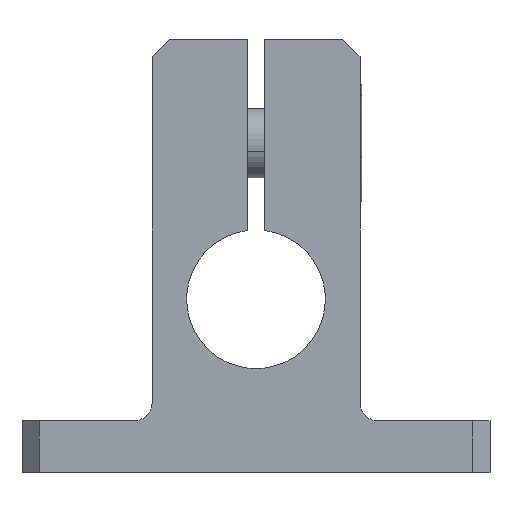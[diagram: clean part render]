
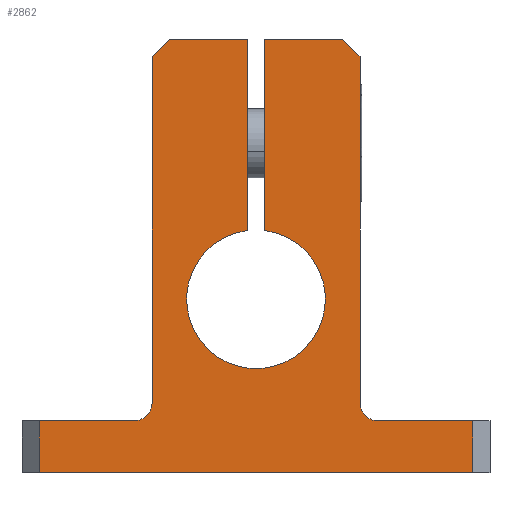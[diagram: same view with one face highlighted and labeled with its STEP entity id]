
A CAD part, front view. The second image highlights one B-rep face of the part: STEP entity #2862.
In plain terms, the highlighted planar face has unit normal (0, -1, 0).
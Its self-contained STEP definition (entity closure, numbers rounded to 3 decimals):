
#38 = CARTESIAN_POINT ( 'NONE',  ( -24.305, 23.213, 0. ) ) ;
#61 = ORIENTED_EDGE ( 'NONE', *, *, #5228, .F. ) ;
#80 = VERTEX_POINT ( 'NONE', #747 ) ;
#197 = CARTESIAN_POINT ( 'NONE',  ( -23.805, 23.213, 12. ) ) ;
#227 = CARTESIAN_POINT ( 'NONE',  ( -18.305, 23.213, -12.5 ) ) ;
#285 = CARTESIAN_POINT ( 'NONE',  ( -5.805, 23.213, 0. ) ) ;
#420 = PLANE ( 'NONE',  #8279 ) ;
#483 = CIRCLE ( 'NONE', #10924, 4. ) ;
#556 = LINE ( 'NONE', #197, #2986 ) ;
#746 = CARTESIAN_POINT ( 'NONE',  ( -17.805, 23.213, 12.5 ) ) ;
#747 = CARTESIAN_POINT ( 'NONE',  ( -11.305, 23.213, -9.5 ) ) ;
#970 = CARTESIAN_POINT ( 'NONE',  ( -30.805, 23.213, -9.5 ) ) ;
#995 = DIRECTION ( 'NONE',  ( 0., 0., 1. ) ) ;
#1067 = DIRECTION ( 'NONE',  ( 1., 0., 0. ) ) ;
#1245 = ORIENTED_EDGE ( 'NONE', *, *, #10528, .F. ) ;
#1276 = VERTEX_POINT ( 'NONE', #4174 ) ;
#1330 = CARTESIAN_POINT ( 'NONE',  ( -30.805, 23.213, 0. ) ) ;
#1364 = LINE ( 'NONE', #1330, #6016 ) ;
#1525 = ORIENTED_EDGE ( 'NONE', *, *, #1619, .F. ) ;
#1587 = DIRECTION ( 'NONE',  ( 1., 0., 0. ) ) ;
#1618 = DIRECTION ( 'NONE',  ( 0., -1., 0. ) ) ;
#1619 = EDGE_CURVE ( 'NONE', #5205, #8903, #5196, .T. ) ;
#1661 = ORIENTED_EDGE ( 'NONE', *, *, #8427, .F. ) ;
#1711 = CARTESIAN_POINT ( 'NONE',  ( -17.805, 23.213, 1.469 ) ) ;
#1750 = CARTESIAN_POINT ( 'NONE',  ( -18.305, 23.213, -2.5 ) ) ;
#1764 = CARTESIAN_POINT ( 'NONE',  ( -11.305, 23.213, -8.5 ) ) ;
#1837 = LINE ( 'NONE', #227, #2993 ) ;
#1851 = EDGE_CURVE ( 'NONE', #9781, #1276, #1837, .T. ) ;
#2230 = VECTOR ( 'NONE', #11232, 1000. ) ;
#2266 = DIRECTION ( 'NONE',  ( 0., 0., 1. ) ) ;
#2304 = DIRECTION ( 'NONE',  ( 0., 1., 0. ) ) ;
#2313 = EDGE_CURVE ( 'NONE', #80, #7800, #4993, .T. ) ;
#2427 = CARTESIAN_POINT ( 'NONE',  ( -18.805, 23.213, 0. ) ) ;
#2503 = LINE ( 'NONE', #3788, #2230 ) ;
#2516 = ORIENTED_EDGE ( 'NONE', *, *, #2714, .F. ) ;
#2663 = DIRECTION ( 'NONE',  ( 0., 0., 1. ) ) ;
#2680 = DIRECTION ( 'NONE',  ( 0., 0., 1. ) ) ;
#2714 = EDGE_CURVE ( 'NONE', #2820, #7849, #556, .T. ) ;
#2740 = EDGE_CURVE ( 'NONE', #7800, #9781, #4292, .T. ) ;
#2820 = VERTEX_POINT ( 'NONE', #9621 ) ;
#2862 = ADVANCED_FACE ( 'NONE', ( #7497 ), #420, .F. ) ;
#2871 = VERTEX_POINT ( 'NONE', #9749 ) ;
#2947 = AXIS2_PLACEMENT_3D ( 'NONE', #7187, #1618, #8140 ) ;
#2986 = VECTOR ( 'NONE', #10449, 1000. ) ;
#2993 = VECTOR ( 'NONE', #6730, 1000. ) ;
#3014 = AXIS2_PLACEMENT_3D ( 'NONE', #1764, #8282, #2680 ) ;
#3252 = ORIENTED_EDGE ( 'NONE', *, *, #3920, .T. ) ;
#3330 = VERTEX_POINT ( 'NONE', #746 ) ;
#3397 = ORIENTED_EDGE ( 'NONE', *, *, #5262, .F. ) ;
#3420 = CARTESIAN_POINT ( 'NONE',  ( -12.805, 23.213, 12. ) ) ;
#3501 = LINE ( 'NONE', #10319, #8463 ) ;
#3527 = ORIENTED_EDGE ( 'NONE', *, *, #10908, .F. ) ;
#3788 = CARTESIAN_POINT ( 'NONE',  ( -12.305, 23.213, 1.5 ) ) ;
#3814 = ORIENTED_EDGE ( 'NONE', *, *, #2740, .F. ) ;
#3920 = EDGE_CURVE ( 'NONE', #4074, #8903, #2503, .T. ) ;
#4074 = VERTEX_POINT ( 'NONE', #8663 ) ;
#4166 = EDGE_CURVE ( 'NONE', #7849, #5373, #6792, .T. ) ;
#4174 = CARTESIAN_POINT ( 'NONE',  ( -30.805, 23.213, -12.5 ) ) ;
#4292 = LINE ( 'NONE', #285, #6489 ) ;
#4479 = DIRECTION ( 'NONE',  ( 0.707, 0., -0.707 ) ) ;
#4488 = DIRECTION ( 'NONE',  ( 1., 0., 0. ) ) ;
#4643 = DIRECTION ( 'NONE',  ( 1., 0., 0. ) ) ;
#4883 = CARTESIAN_POINT ( 'NONE',  ( -5.805, 23.213, -9.5 ) ) ;
#4971 = CARTESIAN_POINT ( 'NONE',  ( -23.305, 23.213, 12.5 ) ) ;
#4993 = LINE ( 'NONE', #10241, #9965 ) ;
#5091 = VERTEX_POINT ( 'NONE', #1711 ) ;
#5196 = LINE ( 'NONE', #3420, #8994 ) ;
#5205 = VERTEX_POINT ( 'NONE', #9268 ) ;
#5228 = EDGE_CURVE ( 'NONE', #2871, #2820, #9631, .T. ) ;
#5262 = EDGE_CURVE ( 'NONE', #5091, #3330, #3501, .T. ) ;
#5281 = ORIENTED_EDGE ( 'NONE', *, *, #10756, .F. ) ;
#5373 = VERTEX_POINT ( 'NONE', #8665 ) ;
#5413 = CARTESIAN_POINT ( 'NONE',  ( -5.805, 23.213, -12.5 ) ) ;
#5596 = CIRCLE ( 'NONE', #2947, 1. ) ;
#5719 = VECTOR ( 'NONE', #11637, 1000. ) ;
#6016 = VECTOR ( 'NONE', #2266, 1000. ) ;
#6030 = LINE ( 'NONE', #2427, #5719 ) ;
#6489 = VECTOR ( 'NONE', #7705, 1000. ) ;
#6510 = VECTOR ( 'NONE', #4488, 1000. ) ;
#6730 = DIRECTION ( 'NONE',  ( -1., 0., 0. ) ) ;
#6792 = LINE ( 'NONE', #10001, #11711 ) ;
#6815 = LINE ( 'NONE', #9165, #6510 ) ;
#7187 = CARTESIAN_POINT ( 'NONE',  ( -25.305, 23.213, -8.5 ) ) ;
#7416 = EDGE_CURVE ( 'NONE', #11906, #9633, #6815, .T. ) ;
#7497 = FACE_OUTER_BOUND ( 'NONE', #9069, .T. ) ;
#7705 = DIRECTION ( 'NONE',  ( 0., 0., -1. ) ) ;
#7800 = VERTEX_POINT ( 'NONE', #4883 ) ;
#7849 = VERTEX_POINT ( 'NONE', #4971 ) ;
#7879 = CARTESIAN_POINT ( 'NONE',  ( -30.805, 23.213, -12.5 ) ) ;
#8025 = EDGE_CURVE ( 'NONE', #9633, #2871, #5596, .T. ) ;
#8084 = ORIENTED_EDGE ( 'NONE', *, *, #8688, .F. ) ;
#8140 = DIRECTION ( 'NONE',  ( 0., 0., 1. ) ) ;
#8269 = DIRECTION ( 'NONE',  ( 0., -1., 0. ) ) ;
#8279 = AXIS2_PLACEMENT_3D ( 'NONE', #7879, #2304, #8816 ) ;
#8282 = DIRECTION ( 'NONE',  ( 0., -1., 0. ) ) ;
#8427 = EDGE_CURVE ( 'NONE', #1276, #11906, #1364, .T. ) ;
#8463 = VECTOR ( 'NONE', #11163, 1000. ) ;
#8545 = CARTESIAN_POINT ( 'NONE',  ( -18.305, 23.213, 12.5 ) ) ;
#8663 = CARTESIAN_POINT ( 'NONE',  ( -12.305, 23.213, -8.5 ) ) ;
#8665 = CARTESIAN_POINT ( 'NONE',  ( -18.805, 23.213, 12.5 ) ) ;
#8688 = EDGE_CURVE ( 'NONE', #10222, #5091, #483, .T. ) ;
#8816 = DIRECTION ( 'NONE',  ( 0., 0., 1. ) ) ;
#8875 = CARTESIAN_POINT ( 'NONE',  ( -18.805, 23.213, 1.469 ) ) ;
#8903 = VERTEX_POINT ( 'NONE', #11326 ) ;
#8994 = VECTOR ( 'NONE', #4479, 1000. ) ;
#9069 = EDGE_LOOP ( 'NONE', ( #1525, #1245, #3397, #8084, #5281, #9954, #2516, #61, #11812, #9080, #1661, #11233, #3814, #10953, #3527, #3252 ) ) ;
#9080 = ORIENTED_EDGE ( 'NONE', *, *, #7416, .F. ) ;
#9165 = CARTESIAN_POINT ( 'NONE',  ( -18.305, 23.213, -9.5 ) ) ;
#9268 = CARTESIAN_POINT ( 'NONE',  ( -13.305, 23.213, 12.5 ) ) ;
#9331 = VECTOR ( 'NONE', #995, 1000. ) ;
#9621 = CARTESIAN_POINT ( 'NONE',  ( -24.305, 23.213, 11.5 ) ) ;
#9631 = LINE ( 'NONE', #38, #9331 ) ;
#9633 = VERTEX_POINT ( 'NONE', #9801 ) ;
#9749 = CARTESIAN_POINT ( 'NONE',  ( -24.305, 23.213, -8.5 ) ) ;
#9781 = VERTEX_POINT ( 'NONE', #5413 ) ;
#9801 = CARTESIAN_POINT ( 'NONE',  ( -25.305, 23.213, -9.5 ) ) ;
#9954 = ORIENTED_EDGE ( 'NONE', *, *, #4166, .F. ) ;
#9965 = VECTOR ( 'NONE', #4643, 1000. ) ;
#10001 = CARTESIAN_POINT ( 'NONE',  ( -18.305, 23.213, 12.5 ) ) ;
#10222 = VERTEX_POINT ( 'NONE', #8875 ) ;
#10241 = CARTESIAN_POINT ( 'NONE',  ( -18.305, 23.213, -9.5 ) ) ;
#10244 = VECTOR ( 'NONE', #1067, 1000. ) ;
#10319 = CARTESIAN_POINT ( 'NONE',  ( -17.805, 23.213, 0. ) ) ;
#10449 = DIRECTION ( 'NONE',  ( 0.707, 0., 0.707 ) ) ;
#10528 = EDGE_CURVE ( 'NONE', #3330, #5205, #11106, .T. ) ;
#10756 = EDGE_CURVE ( 'NONE', #5373, #10222, #6030, .T. ) ;
#10908 = EDGE_CURVE ( 'NONE', #4074, #80, #11942, .T. ) ;
#10924 = AXIS2_PLACEMENT_3D ( 'NONE', #1750, #8269, #2663 ) ;
#10953 = ORIENTED_EDGE ( 'NONE', *, *, #2313, .F. ) ;
#11106 = LINE ( 'NONE', #8545, #10244 ) ;
#11163 = DIRECTION ( 'NONE',  ( 0., 0., 1. ) ) ;
#11232 = DIRECTION ( 'NONE',  ( 0., 0., 1. ) ) ;
#11233 = ORIENTED_EDGE ( 'NONE', *, *, #1851, .F. ) ;
#11326 = CARTESIAN_POINT ( 'NONE',  ( -12.305, 23.213, 11.5 ) ) ;
#11637 = DIRECTION ( 'NONE',  ( 0., 0., -1. ) ) ;
#11711 = VECTOR ( 'NONE', #1587, 1000. ) ;
#11812 = ORIENTED_EDGE ( 'NONE', *, *, #8025, .F. ) ;
#11906 = VERTEX_POINT ( 'NONE', #970 ) ;
#11942 = CIRCLE ( 'NONE', #3014, 1. ) ;
